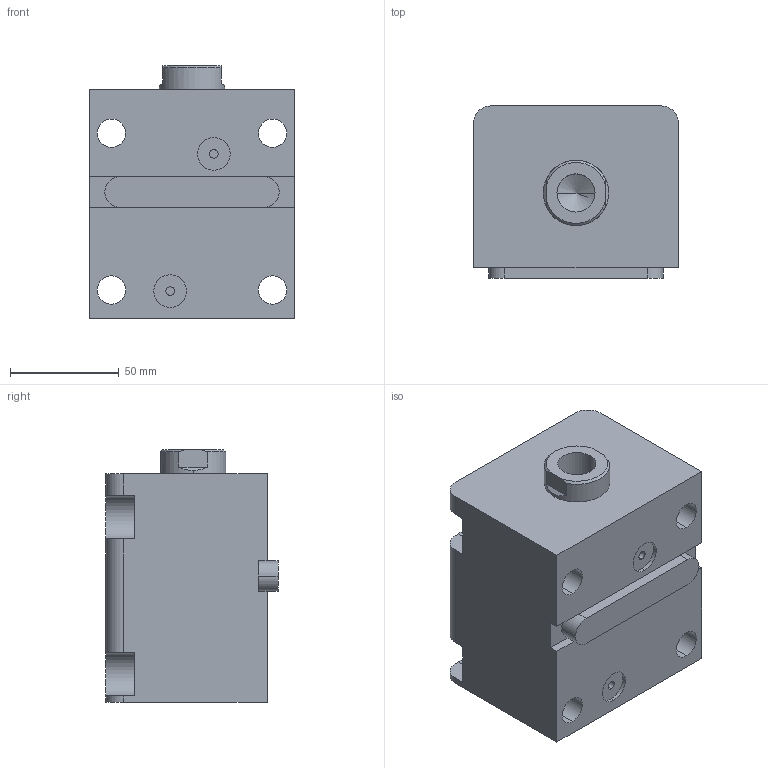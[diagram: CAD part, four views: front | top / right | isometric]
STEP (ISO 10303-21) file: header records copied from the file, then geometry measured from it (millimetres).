
FILE_DESCRIPTION (( 'STEP AP203' ), '1' );
FILE_NAME ('HTB-LAM50-45N.STEP', '2023-03-20T00:54:14', ( '微软用户' ), ( '微软中国' ), 'SwSTEP 2.0', 'SolidWorks 2012', '' );
FILE_SCHEMA (( 'CONFIG_CONTROL_DESIGN' ));
Length unit declared in the file: millimetre
Products named in the file (4): HTB-LAM50-45N; HTB-LWM50-瑩; HTB-LAM50-45N活塞杆; HTB-LAM50-45掛极
Assembly tree (3 placements, depth 2):
  HTB-LAM50-45N
    HTB-LAM50-45掛极
    HTB-LAM50-45N活塞杆
    HTB-LWM50-瑩
Bounding box: 94 x 79 x 116 mm (x, y, z)
Volume: 625516.9 mm3; surface area: 95952.3 mm2
Topology: 3 solids, 3 shells, 86 faces, 213 edges, 139 vertices
Faces by surface type: cylinder 39, plane 39, torus 4, cone 4
Entity records: 3001 total; most frequent: DIRECTION 475, CARTESIAN_POINT 470, ORIENTED_EDGE 422, EDGE_CURVE 211, AXIS2_PLACEMENT_3D 180, VERTEX_POINT 139, LINE 115, VECTOR 115
